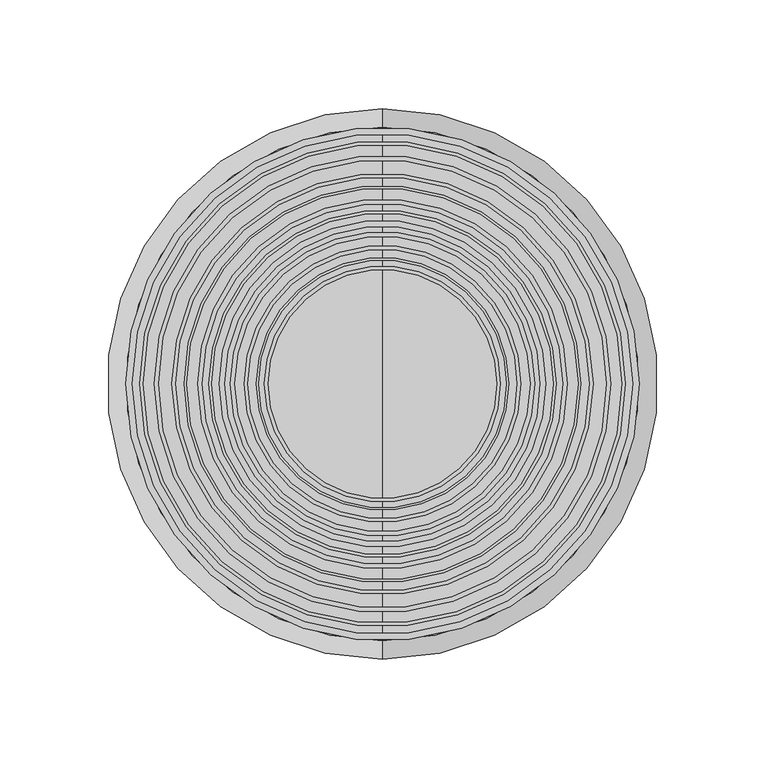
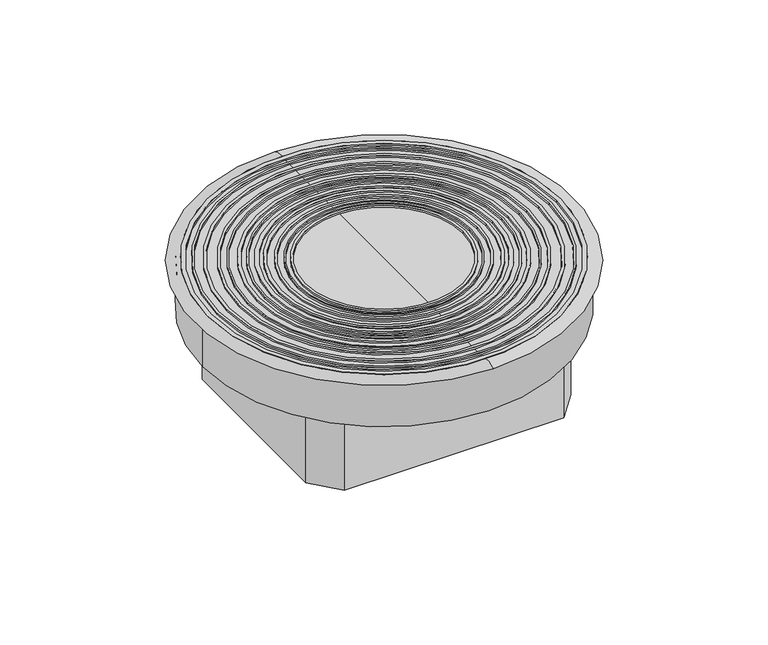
"""IFC4 building model written with IfcOpenShell, lengths in millimetres: proxy geometry, Electrical_Installation_Hager_VE-EE_VANR-Service-unit-for-wet-cleaned-floors-for-the-installation-of-tube-cable-outlets-made-of-aluminium : Service unit R12 w set HB wet Al-Tub R deep black."""

from ifc_helpers import new_model, si_unit, point, frame, origin, origin_with_axes, origin_2d, place, context, project, spatial, polyline, circle_curve, ellipse_curve, trimmed, segment, composite_curve, outline, extrude, source, transform, mapped, element, save
from ifc_brep_helpers import plane_surface, revolved_surface, advanced_brep


def electrical_fixtures_c710c140(model_context):
    return source(origin(), model_context, "Body", "SolidModel", [
        extrude(outline(composite_curve([segment(trimmed(circle_curve(origin_2d(), 58.00418), [point((-58.00418, 0.0))], [point((58.00418, 0.0))], False, "CARTESIAN"), True, "CONTINUOUS"), segment(trimmed(circle_curve(origin_2d(), 58.00418), [point((58.00418, 0.0))], [point((-58.00418, 0.0))], False, "CARTESIAN"), True, "CONTINUOUS")], self_intersect=False), holes=[composite_curve([segment(trimmed(circle_curve(origin_2d(), 56.9513362), [point((-56.9513362, 0.0))], [point((56.9513362, 0.0))], True, "CARTESIAN"), True, "CONTINUOUS"), segment(trimmed(circle_curve(origin_2d(), 56.9513362), [point((56.9513362, 0.0))], [point((-56.9513362, 0.0))], True, "CARTESIAN"), True, "CONTINUOUS")], self_intersect=False)]), origin_with_axes(), (0.0, 0.0, 1.0), 2.0),
        extrude(outline(composite_curve([segment(trimmed(circle_curve(origin_2d(), 63.5524839), [point((-63.5524839, 0.0))], [point((63.5524839, 0.0))], False, "CARTESIAN"), True, "CONTINUOUS"), segment(trimmed(circle_curve(origin_2d(), 63.5524839), [point((63.5524839, 0.0))], [point((-63.5524839, 0.0))], False, "CARTESIAN"), True, "CONTINUOUS")], self_intersect=False), holes=[composite_curve([segment(trimmed(circle_curve(origin_2d(), 61.8171325), [point((-61.8171325, 0.0))], [point((61.8171325, 0.0))], True, "CARTESIAN"), True, "CONTINUOUS"), segment(trimmed(circle_curve(origin_2d(), 61.8171325), [point((61.8171325, 0.0))], [point((-61.8171325, 0.0))], True, "CARTESIAN"), True, "CONTINUOUS")], self_intersect=False)]), origin_with_axes(), (0.0, 0.0, 1.0), 2.0),
        extrude(outline(composite_curve([segment(trimmed(circle_curve(origin_2d(), 118.0132917), [point((-118.0132917, 0.0))], [point((118.0132917, 0.0))], False, "CARTESIAN"), True, "CONTINUOUS"), segment(trimmed(circle_curve(origin_2d(), 118.0132917), [point((118.0132917, 0.0))], [point((-118.0132917, 0.0))], False, "CARTESIAN"), True, "CONTINUOUS")], self_intersect=False), holes=[composite_curve([segment(trimmed(circle_curve(origin_2d(), 115.0), [point((-115.0, 0.0))], [point((115.0, 0.0))], True, "CARTESIAN"), True, "CONTINUOUS"), segment(trimmed(circle_curve(origin_2d(), 115.0), [point((115.0, 0.0))], [point((-115.0, 0.0))], True, "CARTESIAN"), True, "CONTINUOUS")], self_intersect=False)]), origin_with_axes(), (0.0, 0.0, 1.0), 2.0),
        extrude(outline(composite_curve([segment(trimmed(circle_curve(origin_2d(), 70.0), [point((-70.0, 0.0))], [point((70.0, 0.0))], False, "CARTESIAN"), True, "CONTINUOUS"), segment(trimmed(circle_curve(origin_2d(), 70.0), [point((70.0, 0.0))], [point((-70.0, 0.0))], False, "CARTESIAN"), True, "CONTINUOUS")], self_intersect=False), holes=[composite_curve([segment(trimmed(circle_curve(origin_2d(), 67.8222871), [point((-67.8222871, 0.0))], [point((67.8222871, 0.0))], True, "CARTESIAN"), True, "CONTINUOUS"), segment(trimmed(circle_curve(origin_2d(), 67.8222871), [point((67.8222871, 0.0))], [point((-67.8222871, 0.0))], True, "CARTESIAN"), True, "CONTINUOUS")], self_intersect=False)]), origin_with_axes(), (0.0, 0.0, 1.0), 2.0),
        extrude(outline(composite_curve([segment(trimmed(circle_curve(origin_2d(), 75.0997816), [point((-75.0997816, 0.0))], [point((75.0997816, 0.0))], False, "CARTESIAN"), True, "CONTINUOUS"), segment(trimmed(circle_curve(origin_2d(), 75.0997816), [point((75.0997816, 0.0))], [point((-75.0997816, 0.0))], False, "CARTESIAN"), True, "CONTINUOUS")], self_intersect=False), holes=[composite_curve([segment(trimmed(circle_curve(origin_2d(), 72.391158), [point((-72.391158, 0.0))], [point((72.391158, 0.0))], True, "CARTESIAN"), True, "CONTINUOUS"), segment(trimmed(circle_curve(origin_2d(), 72.391158), [point((72.391158, 0.0))], [point((-72.391158, 0.0))], True, "CARTESIAN"), True, "CONTINUOUS")], self_intersect=False)]), origin_with_axes(), (0.0, 0.0, 1.0), 2.0),
        extrude(outline(composite_curve([segment(trimmed(circle_curve(origin_2d(), 79.7872816), [point((-79.7872816, 0.0))], [point((79.7872816, 0.0))], False, "CARTESIAN"), True, "CONTINUOUS"), segment(trimmed(circle_curve(origin_2d(), 79.7872816), [point((79.7872816, 0.0))], [point((-79.7872816, 0.0))], False, "CARTESIAN"), True, "CONTINUOUS")], self_intersect=False), holes=[composite_curve([segment(trimmed(circle_curve(origin_2d(), 78.5), [point((-78.5, 0.0))], [point((78.5, 0.0))], True, "CARTESIAN"), True, "CONTINUOUS"), segment(trimmed(circle_curve(origin_2d(), 78.5), [point((78.5, 0.0))], [point((-78.5, 0.0))], True, "CARTESIAN"), True, "CONTINUOUS")], self_intersect=False)]), origin_with_axes(), (0.0, 0.0, 1.0), 2.0),
        extrude(outline(composite_curve([segment(trimmed(circle_curve(origin_2d(), 85.0), [point((-85.0, 0.0))], [point((85.0, 0.0))], False, "CARTESIAN"), True, "CONTINUOUS"), segment(trimmed(circle_curve(origin_2d(), 85.0), [point((85.0, 0.0))], [point((-85.0, 0.0))], False, "CARTESIAN"), True, "CONTINUOUS")], self_intersect=False), holes=[composite_curve([segment(trimmed(circle_curve(origin_2d(), 82.8229863), [point((-82.8229863, 0.0))], [point((82.8229863, 0.0))], True, "CARTESIAN"), True, "CONTINUOUS"), segment(trimmed(circle_curve(origin_2d(), 82.8229863), [point((82.8229863, 0.0))], [point((-82.8229863, 0.0))], True, "CARTESIAN"), True, "CONTINUOUS")], self_intersect=False)]), origin_with_axes(), (0.0, 0.0, 1.0), 2.0),
        extrude(outline(composite_curve([segment(trimmed(circle_curve(origin_2d(), 91.1743393), [point((-91.1743393, 0.0))], [point((91.1743393, 0.0))], False, "CARTESIAN"), True, "CONTINUOUS"), segment(trimmed(circle_curve(origin_2d(), 91.1743393), [point((91.1743393, 0.0))], [point((-91.1743393, 0.0))], False, "CARTESIAN"), True, "CONTINUOUS")], self_intersect=False), holes=[composite_curve([segment(trimmed(circle_curve(origin_2d(), 90.0), [point((-90.0, 0.0))], [point((90.0, 0.0))], True, "CARTESIAN"), True, "CONTINUOUS"), segment(trimmed(circle_curve(origin_2d(), 90.0), [point((90.0, 0.0))], [point((-90.0, 0.0))], True, "CARTESIAN"), True, "CONTINUOUS")], self_intersect=False)]), origin_with_axes(), (0.0, 0.0, 1.0), 2.0),
        extrude(outline(composite_curve([segment(trimmed(circle_curve(origin_2d(), 96.7872816), [point((-96.7872816, 0.0))], [point((96.7872816, 0.0))], False, "CARTESIAN"), True, "CONTINUOUS"), segment(trimmed(circle_curve(origin_2d(), 96.7872816), [point((96.7872816, 0.0))], [point((-96.7872816, 0.0))], False, "CARTESIAN"), True, "CONTINUOUS")], self_intersect=False), holes=[composite_curve([segment(trimmed(circle_curve(origin_2d(), 95.0), [point((-95.0, 0.0))], [point((95.0, 0.0))], True, "CARTESIAN"), True, "CONTINUOUS"), segment(trimmed(circle_curve(origin_2d(), 95.0), [point((95.0, 0.0))], [point((-95.0, 0.0))], True, "CARTESIAN"), True, "CONTINUOUS")], self_intersect=False)]), origin_with_axes(), (0.0, 0.0, 1.0), 2.0),
        extrude(outline(composite_curve([segment(trimmed(circle_curve(origin_2d(), 105.0), [point((-105.0, 0.0))], [point((105.0, 0.0))], False, "CARTESIAN"), True, "CONTINUOUS"), segment(trimmed(circle_curve(origin_2d(), 105.0), [point((105.0, 0.0))], [point((-105.0, 0.0))], False, "CARTESIAN"), True, "CONTINUOUS")], self_intersect=False), holes=[composite_curve([segment(trimmed(circle_curve(origin_2d(), 102.9331876), [point((-102.9331876, 0.0))], [point((102.9331876, 0.0))], True, "CARTESIAN"), True, "CONTINUOUS"), segment(trimmed(circle_curve(origin_2d(), 102.9331876), [point((102.9331876, 0.0))], [point((-102.9331876, 0.0))], True, "CARTESIAN"), True, "CONTINUOUS")], self_intersect=False)]), origin_with_axes(), (0.0, 0.0, 1.0), 2.0),
        extrude(outline(composite_curve([segment(trimmed(circle_curve(origin_2d(), 111.6227787), [point((-111.6227787, 0.0))], [point((111.6227787, 0.0))], False, "CARTESIAN"), True, "CONTINUOUS"), segment(trimmed(circle_curve(origin_2d(), 111.6227787), [point((111.6227787, 0.0))], [point((-111.6227787, 0.0))], False, "CARTESIAN"), True, "CONTINUOUS")], self_intersect=False), holes=[composite_curve([segment(trimmed(circle_curve(origin_2d(), 110.0), [point((-110.0, 0.0))], [point((110.0, 0.0))], True, "CARTESIAN"), True, "CONTINUOUS"), segment(trimmed(circle_curve(origin_2d(), 110.0), [point((110.0, 0.0))], [point((-110.0, 0.0))], True, "CARTESIAN"), True, "CONTINUOUS")], self_intersect=False)]), origin_with_axes(), (0.0, 0.0, 1.0), 2.0),
        extrude(outline(composite_curve([segment(trimmed(circle_curve(origin_2d(), 54.2349413), [point((-54.2349413, 0.0))], [point((54.2349413, 0.0))], False, "CARTESIAN"), True, "CONTINUOUS"), segment(trimmed(circle_curve(origin_2d(), 54.2349413), [point((54.2349413, 0.0))], [point((-54.2349413, 0.0))], False, "CARTESIAN"), True, "CONTINUOUS")], self_intersect=False), holes=[composite_curve([segment(trimmed(circle_curve(origin_2d(), 52.5), [point((-52.5, 0.0))], [point((52.5, 0.0))], True, "CARTESIAN"), True, "CONTINUOUS"), segment(trimmed(circle_curve(origin_2d(), 52.5), [point((52.5, 0.0))], [point((-52.5, 0.0))], True, "CARTESIAN"), True, "CONTINUOUS")], self_intersect=False)]), origin_with_axes(), (0.0, 0.0, 1.0), 2.0),
        extrude(outline(polyline([(-87.0713294, -60.5396398), (-87.0713294, 59.7392029), (-72.1428496, 77.5997816), (74.461121, 77.5997816), (89.9286706, 59.3992323), (89.9286706, -60.5396398), (74.6779783, -78.4002184), (-71.820637, -78.4002184), (-87.0713294, -60.5396398)]), holes=[polyline([(-84.5713294, 59.8409635), (-84.5713294, -60.6414004), (-71.542214, -75.9002184), (74.3995552, -75.9002184), (87.4286706, -60.6414004), (87.4286706, 59.8409635), (74.461121, 75.0997816), (-71.8174897, 75.0997816), (-84.5713294, 59.8409635)])]), frame((0.0, 0.0, -90.0), z_axis=(0.0, 0.0, 1.0), x_axis=(1.0, 0.0, 0.0)), (0.0, 0.0, 1.0), 57.0),
        extrude(outline(composite_curve([segment(trimmed(circle_curve(origin_2d(), 121.0), [point((-121.0, 0.0))], [point((121.0, 0.0))], False, "CARTESIAN"), True, "CONTINUOUS"), segment(trimmed(circle_curve(origin_2d(), 121.0), [point((121.0, 0.0))], [point((-121.0, 0.0))], False, "CARTESIAN"), True, "CONTINUOUS")], self_intersect=False), holes=[polyline([(74.3995552, -75.9002184), (87.4286706, -60.6414004), (87.4286706, 59.8409635), (74.461121, 75.0997816), (-71.8174897, 75.0997816), (-84.5713294, 59.8409635), (-84.5713294, -60.6414004), (-71.542214, -75.9002184), (74.3995552, -75.9002184)])]), frame((0.0, 0.0, -33.0), z_axis=(0.0, 0.0, 1.0), x_axis=(1.0, 0.0, 0.0)), (0.0, 0.0, 1.0), 33.0),
        advanced_brep(
        [(0.0, -126.5, 0.0), (0.0, 126.5, 0.0), (0.0, 0.0, 0.0), (0.0, -118.0132917, 0.9941326), (0.0, 118.0132917, 0.9941326), (0.0, 118.0132917, 1.9800426), (0.0, -118.0132917, 1.9800426), (0.0, 0.0, 0.9941326)],
        [
            (0, 1, circle_curve(frame((0.0, 0.0, 0.0), z_axis=(0.0, 0.0, -1.0), x_axis=(0.0, 1.0, 0.0)), 126.5)),
            (1, 2),
            (2, 0),
            (1, 0, circle_curve(frame((0.0, 0.0, 0.0), z_axis=(0.0, 0.0, -1.0), x_axis=(0.0, 1.0, 0.0)), 126.5)),
            (3, 4, circle_curve(frame((0.0, 0.0, 0.9941326), z_axis=(0.0, 0.0, -1.0), x_axis=(0.0, 1.0, 0.0)), 118.0132917)),
            (4, 5),
            (5, 6, circle_curve(frame((0.0, 0.0, 1.9800426), z_axis=(0.0, 0.0, 1.0), x_axis=(0.0, 1.0, 0.0)), 118.0132917)),
            (6, 3),
            (4, 3, circle_curve(frame((0.0, 0.0, 0.9941326), z_axis=(0.0, 0.0, -1.0), x_axis=(0.0, 1.0, 0.0)), 118.0132917)),
            (6, 5, circle_curve(frame((0.0, 0.0, 1.9800426), z_axis=(0.0, 0.0, 1.0), x_axis=(0.0, 1.0, 0.0)), 118.0132917)),
            (7, 4),
            (3, 7),
            (5, 1, circle_curve(frame((0.0, 118.4758851, -15.2147882), z_axis=(-1.0, 0.0, 0.0), x_axis=(0.0, 1.0, 0.0)), 17.2010523)),
            (0, 6, circle_curve(frame((0.0, -118.4758851, -15.2147882), z_axis=(-1.0, 0.0, 0.0), x_axis=(0.0, -1.0, 0.0)), 17.2010523)),
        ],
        [
            plane_surface(frame((0.0, 0.0, 0.0), z_axis=(0.0, 0.0, -1.0), x_axis=(0.0, 1.0, 0.0))),
            revolved_surface(polyline([(0.0, 118.0132917, 1.9800426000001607), (0.0, 118.0132917, 0.9941325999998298)]), (0.0, 0.0, 2341.8067943), (0.0, 0.0, 1.0)),
            plane_surface(frame((0.0, 0.0, 0.9941326), z_axis=(0.0, 0.0, 1.0), x_axis=(0.0, 1.0, 0.0))),
            revolved_surface(trimmed(ellipse_curve(frame((0.0, 118.4758851, -15.2147882), z_axis=(1.0, 0.0, 0.0), x_axis=(0.0, 1.0, 0.0)), 17.2010523, 17.2010523), [point((0.0, 126.5, 0.0))], [point((0.0, 118.0132917, 1.9800426))], True, "CARTESIAN"), (0.0, 0.0, 2341.8067943), (0.0, 0.0, 1.0)),
        ],
        [
            (0, [[1, 2, 3]]),
            (0, [[4, -3, -2]]),
            (1, [[5, 6, 7, 8]]),
            (1, [[9, -8, 10, -6]]),
            (2, [[11, -5, 12]]),
            (2, [[-12, -9, -11]]),
            (3, [[-7, 13, -1, 14]]),
            (3, [[-10, -14, -4, -13]]),
        ],
    ),
    ])


if __name__ == "__main__":
    model = new_model("IFC4")
    model_context = context("Model", 3, world=origin())
    ifc_project = project(units=[si_unit("LENGTHUNIT", "METRE", prefix="MILLI")], contexts=[model_context])
    site = spatial("IfcSite", under=ifc_project)
    building = spatial("IfcBuilding", under=site)
    placement = place(None, origin())
    electrical_fixtures_shape = electrical_fixtures_c710c140(model_context)
    element("IfcBuildingElementProxy", 1, Name="Electrical_Installation_Hager_VE-EE_VANR-Service-unit-for-wet-cleaned-floors-for-the-installation-of-tube-cable-outlets-made-of-aluminium : Service unit R12 w set HB wet Al-Tub R deep black", ObjectType="Electrical_Installation_Hager_VE-EE_VANR-Service-unit-for-wet-cleaned-floors-for-the-installation-of-tube-cable-outlets-made-of-aluminium : Service unit R12 w set HB wet Al-Tub R deep black", at=placement, inside=building, context=model_context, shape_type="MappedRepresentation", body=[
        mapped(electrical_fixtures_shape, transform((0.0, 0.0, 0.0), x_axis=(1.0, 0.0, 0.0), y_axis=(0.0, 1.0, 0.0), z_axis=(0.0, 0.0, 1.0))),
    ])
    save(model, "model.ifc")
